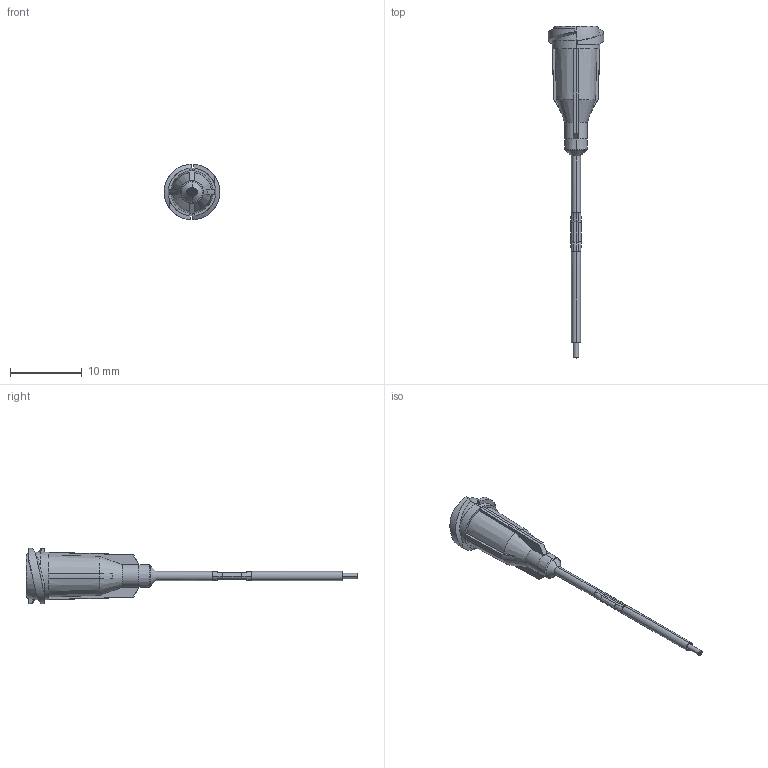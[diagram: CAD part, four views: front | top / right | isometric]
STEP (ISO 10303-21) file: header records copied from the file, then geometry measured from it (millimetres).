
FILE_DESCRIPTION (( 'STEP AP214' ), '1' );
FILE_NAME ('NORDSONEFD-7018381 TIP 25GA TLC 006 X 1 1-2 PK.STEP', '2019-01-10T07:33:20', ( '' ), ( '' ), 'SwSTEP 2.0', 'SolidWorks 2018', '' );
FILE_SCHEMA (( 'AUTOMOTIVE_DESIGN' ));
Length unit declared in the file: inch
Products named in the file (1): NORDSONEFD-7018381 TIP 25GA TLC 006 X 1 1-2 PK
Bounding box: 7.77 x 46.43 x 7.77 mm (x, y, z)
Volume: 282.9 mm3; surface area: 845.6 mm2
Topology: 1 solids, 1 shells, 163 faces, 418 edges, 256 vertices
Faces by surface type: bspline 60, plane 35, cone 25, cylinder 24, torus 19
Entity records: 15156 total; most frequent: CARTESIAN_POINT 10993, ORIENTED_EDGE 836, DIRECTION 553, EDGE_CURVE 418, VERTEX_POINT 256, AXIS2_PLACEMENT_3D 226, B_SPLINE_CURVE_WITH_KNOTS 185, EDGE_LOOP 172
